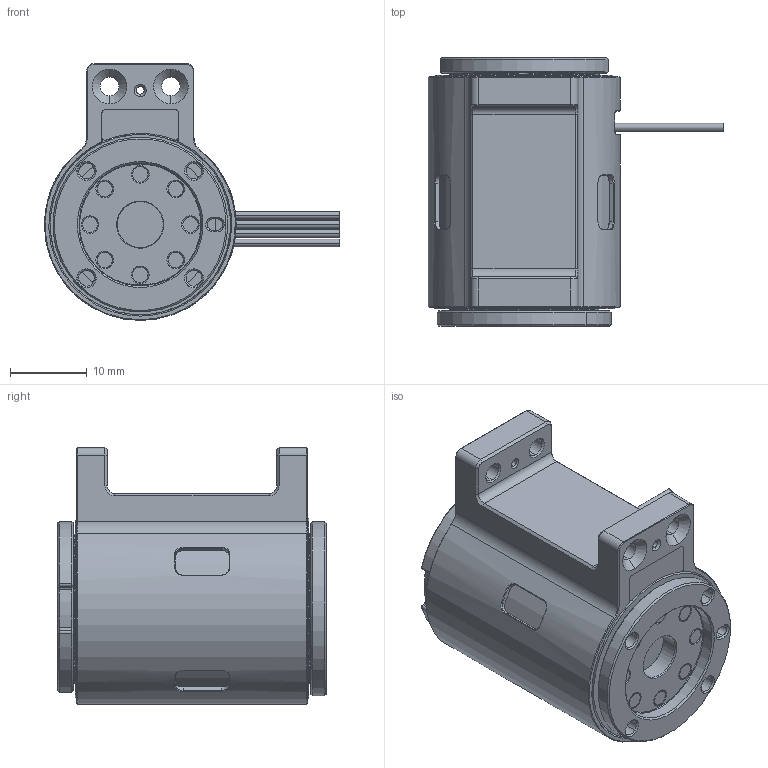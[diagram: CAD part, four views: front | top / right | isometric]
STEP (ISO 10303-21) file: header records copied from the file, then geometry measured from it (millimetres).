
FILE_DESCRIPTION((''),'2;1');
FILE_NAME('ASM0004_ASM','2026-01-23T15:11:46',('wenbo'),(''),'CREO PARAMETRIC BY PTC INC, 2024325','CREO PARAMETRIC BY PTC INC, 2024325','');
FILE_SCHEMA(('CONFIG_CONTROL_DESIGN'));
Length unit declared in the file: millimetre
Products named in the file (18): 041300000002_ASM_62_ASM_1_ASM; 043000000002_181_1; 040400000002_ASM_108_ASM_1_ASM; 045600000001_65_1; 043500000004_18_1; 044200000005_147_1; 041600000003_ASM_18_ASM_1_ASM; 044100000002_11_1; 044200000004_167_1; 043500000003_17_1; 040600000001_ASM_38_ASM_1_ASM; 045000000001_ASM_54_ASM_1_ASM; 040100000001_ASM_359_ASM_1_ASM; ASM0004_ASM_1_ASM; YUANZHU; XIAO; 045400000003_16_1_1; ASM0004_ASM
Assembly tree (25 placements, depth 5):
  ASM0004_ASM
    ASM0004_ASM_1_ASM
      040100000001_ASM_359_ASM_1_ASM
        040400000002_ASM_108_ASM_1_ASM
          041300000002_ASM_62_ASM_1_ASM
          043000000002_181_1
        045600000001_65_1
        043500000004_18_1
        044200000005_147_1
        041600000003_ASM_18_ASM_1_ASM
        044100000002_11_1
        040600000001_ASM_38_ASM_1_ASM
          044200000004_167_1
          043500000003_17_1
        045000000001_ASM_54_ASM_1_ASM
    YUANZHU
    XIAO  x8
    045400000003_16_1_1  x2
Bounding box: 38.5 x 35 x 33.5 mm (x, y, z)
Volume: 13177.7 mm3; surface area: 13351.1 mm2
Topology: 18 solids, 26 shells, 765 faces, 2097 edges, 1383 vertices
Faces by surface type: cylinder 240, cone 214, plane 207, bspline 70, torus 34
Entity records: 30834 total; most frequent: CARTESIAN_POINT 11200, DIRECTION 4264, ORIENTED_EDGE 3986, EDGE_CURVE 2029, AXIS2_PLACEMENT_3D 1724, VERTEX_POINT 1337, CIRCLE 1007, VECTOR 816
